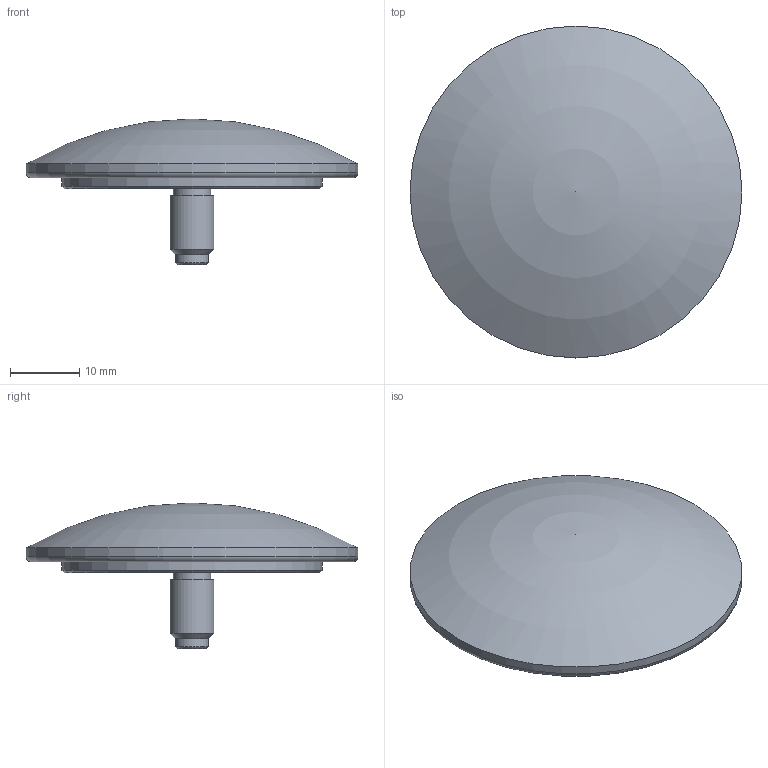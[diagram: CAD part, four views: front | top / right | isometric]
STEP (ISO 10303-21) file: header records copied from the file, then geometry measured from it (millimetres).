
FILE_DESCRIPTION(('Open CASCADE Model'),'2;1');
FILE_NAME('Open CASCADE Shape Model','2026-11-11T21:16:15',('Author'),( 'Open CASCADE'),'Open CASCADE STEP processor 7.9','Open CASCADE 7.9' ,'Unknown');
FILE_SCHEMA(('AUTOMOTIVE_DESIGN { 1 0 10303 214 1 1 1 1 }'));
Length unit declared in the file: millimetre
Products named in the file (1): Open CASCADE STEP translator 7.9 11
Bounding box: 48 x 48 x 21.1 mm (x, y, z)
Volume: 11703.7 mm3; surface area: 4376.6 mm2
Topology: 1 solids, 1 shells, 14 faces, 24 edges, 14 vertices
Faces by surface type: cylinder 5, plane 4, cone 3, torus 1, sphere 1
Full cylindrical faces by diameter (mm): 4.8 x1, 5.4 x1, 6.35 x1, 37.6 x1, 48 x1
Entity records: 639 total; most frequent: DIRECTION 114, CARTESIAN_POINT 98, LINE 47, VECTOR 47, ORIENTED_EDGE 46, PCURVE 46, DEFINITIONAL_REPRESENTATION 46, AXIS2_PLACEMENT_3D 30
